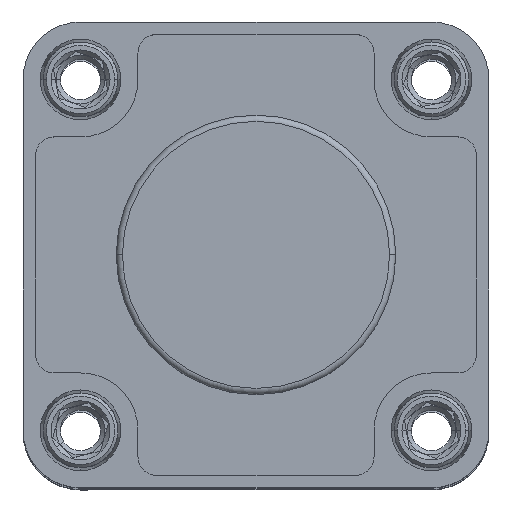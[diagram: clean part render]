
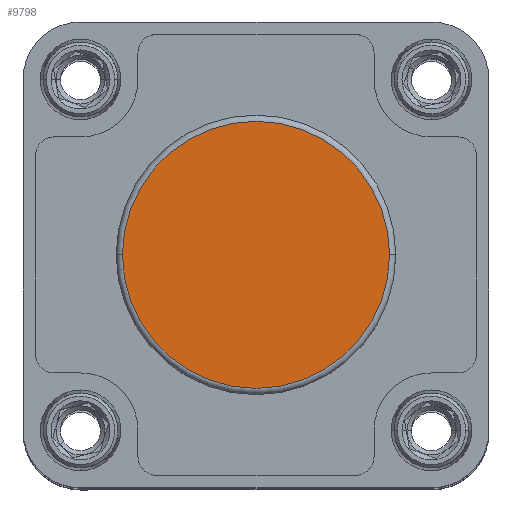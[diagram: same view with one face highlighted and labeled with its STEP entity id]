
A CAD part, top view. The second image highlights one B-rep face of the part: STEP entity #9798.
In plain terms, the highlighted planar face has unit normal (0, 0, 1).
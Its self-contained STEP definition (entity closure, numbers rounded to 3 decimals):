
#56 = CIRCLE ( 'NONE', #4120, 21.5 ) ;
#102 = DIRECTION ( 'NONE',  ( 1., 0., 0. ) ) ;
#505 = CARTESIAN_POINT ( 'NONE',  ( 0., 0., 39. ) ) ;
#1438 = DIRECTION ( 'NONE',  ( 1., 0., 0. ) ) ;
#1937 = CARTESIAN_POINT ( 'NONE',  ( 21.5, 0., 39. ) ) ;
#3037 = FACE_OUTER_BOUND ( 'NONE', #11032, .T. ) ;
#3394 = CARTESIAN_POINT ( 'NONE',  ( -21.5, 0., 39. ) ) ;
#4120 = AXIS2_PLACEMENT_3D ( 'NONE', #4465, #10778, #5391 ) ;
#4123 = EDGE_CURVE ( 'NONE', #6686, #10388, #11028, .T. ) ;
#4465 = CARTESIAN_POINT ( 'NONE',  ( 0., 0., 39. ) ) ;
#4648 = PLANE ( 'NONE',  #6908 ) ;
#5391 = DIRECTION ( 'NONE',  ( 1., 0., 0. ) ) ;
#5555 = DIRECTION ( 'NONE',  ( 0., 0., 1. ) ) ;
#6386 = CARTESIAN_POINT ( 'NONE',  ( -37.5, -37.5, 39. ) ) ;
#6686 = VERTEX_POINT ( 'NONE', #3394 ) ;
#6860 = DIRECTION ( 'NONE',  ( 0., 0., 1. ) ) ;
#6908 = AXIS2_PLACEMENT_3D ( 'NONE', #6386, #5555, #102 ) ;
#9326 = AXIS2_PLACEMENT_3D ( 'NONE', #505, #6860, #1438 ) ;
#9798 = ADVANCED_FACE ( 'NONE', ( #3037 ), #4648, .T. ) ;
#10388 = VERTEX_POINT ( 'NONE', #1937 ) ;
#10778 = DIRECTION ( 'NONE',  ( 0., 0., 1. ) ) ;
#10961 = ORIENTED_EDGE ( 'NONE', *, *, #4123, .T. ) ;
#11028 = CIRCLE ( 'NONE', #9326, 21.5 ) ;
#11032 = EDGE_LOOP ( 'NONE', ( #11492, #10961 ) ) ;
#11476 = EDGE_CURVE ( 'NONE', #10388, #6686, #56, .T. ) ;
#11492 = ORIENTED_EDGE ( 'NONE', *, *, #11476, .T. ) ;
